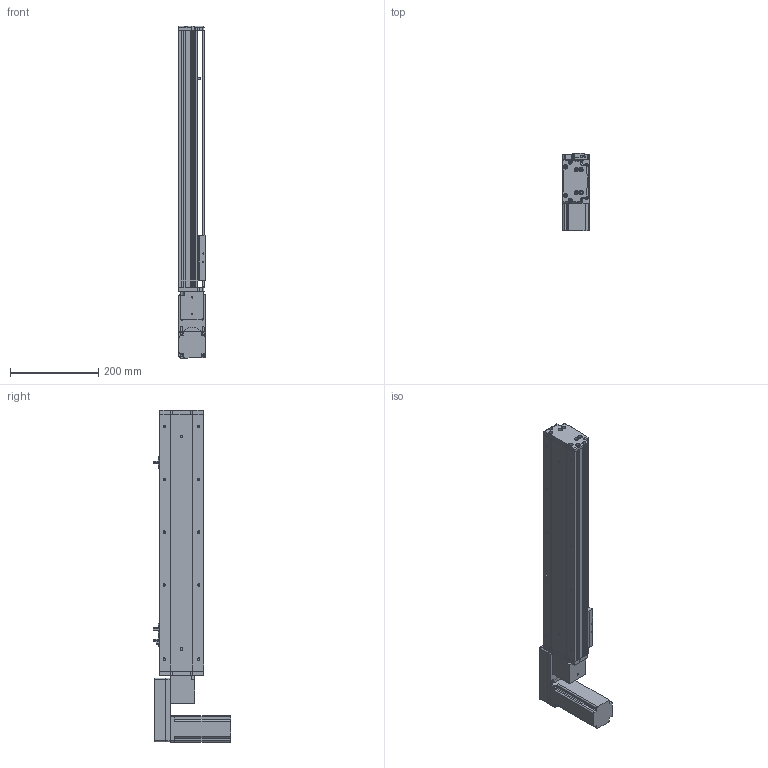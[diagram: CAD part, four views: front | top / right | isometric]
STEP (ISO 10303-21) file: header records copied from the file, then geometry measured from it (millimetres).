
FILE_DESCRIPTION (( 'STEP AP214' ), '1' );
FILE_NAME ('KSD100B-S400-MLB-CM.STEP', '2019-08-31T01:32:14', ( '微软用户' ), ( '微软中国' ), 'SwSTEP 2.0', 'SolidWorks 2014', '' );
FILE_SCHEMA (( 'AUTOMOTIVE_DESIGN' ));
Length unit declared in the file: millimetre
Products named in the file (12): 悵誘欶奻狟殏; 100宽马达安装板连板上下折丝杆同步带; 台达ECMA－C20604AS伺服电机; U倰嫖萇EEㄜSX672; 覜茼え100遵圉猾敕; 100宽防尘板400行程-同步带; 100宽马达安装板同步带左; 100宽同步带安装板半封闭; 100宽马达安装板同步带; 100遵傷啣肮祭湍; 100宽底板半封闭同步带400行程; KSD100B-S400-MLB-CM
Assembly tree (13 placements, depth 2):
  KSD100B-S400-MLB-CM
    100宽底板半封闭同步带400行程
    100遵傷啣肮祭湍
    100宽马达安装板同步带
    100宽同步带安装板半封闭
    100宽马达安装板同步带左
    100宽防尘板400行程-同步带
    覜茼え100遵圉猾敕
    U倰嫖萇EEㄜSX672  x3
    台达ECMA－C20604AS伺服电机
    100宽马达安装板连板上下折丝杆同步带
    悵誘欶奻狟殏
Bounding box: 61 x 174.7 x 753 mm (x, y, z)
Volume: 1840985.8 mm3; surface area: 576534.7 mm2
Topology: 14 solids, 14 shells, 1299 faces, 3622 edges, 2327 vertices
Faces by surface type: cylinder 629, plane 571, cone 99
Entity records: 44571 total; most frequent: CARTESIAN_POINT 8010, DIRECTION 6238, ORIENTED_EDGE 5952, EDGE_CURVE 2976, AXIS2_PLACEMENT_3D 2261, VERTEX_POINT 1951, VECTOR 1716, LINE 1716
